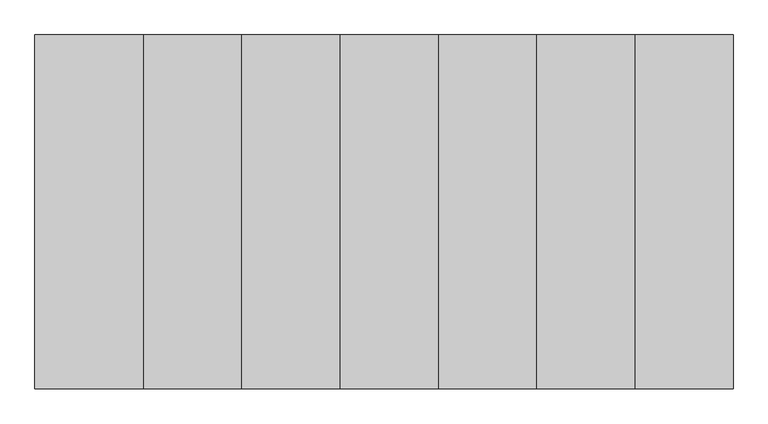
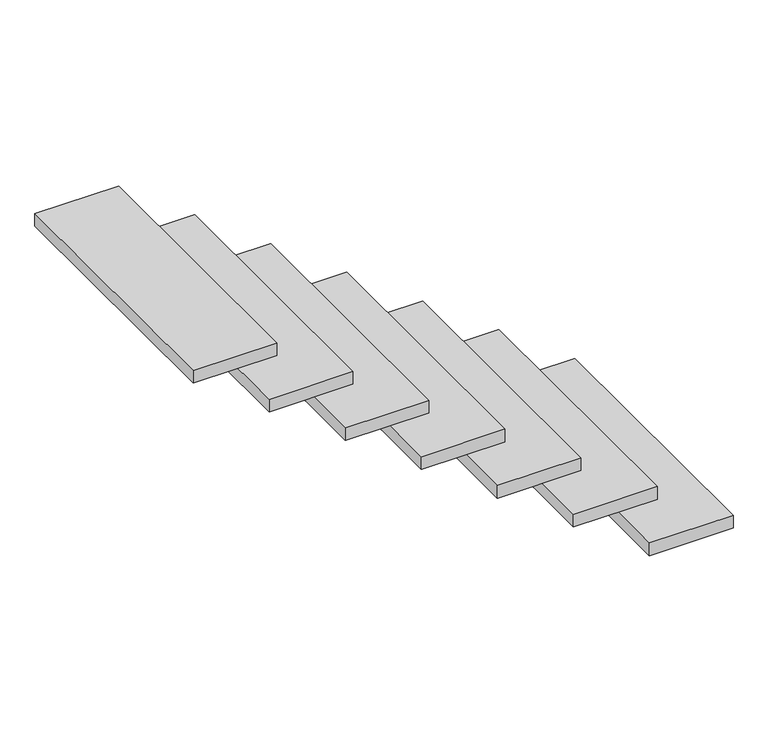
"""IFC4 building model written with IfcOpenShell, lengths in millimetres: stair flight geometry."""

import ifcopenshell
import ifcopenshell.guid

model = None  # the IFC model being written
_history = None  # IfcOwnerHistory: only IFC2X3 demands one
_inside = {}  # id of a spatial element -> (the spatial element, [elements in it])
_under = {}  # id of a project, library or spatial element -> (it, [spatial elements below it])
_declared = {}  # id of a project -> (the project, [libraries it declares])
_typed = {}  # id of a type object -> (the type object, [elements of that type])
_made_of = {}  # id of a material, layer set ... -> (it, [elements and type objects made of it])


def new_model(schema):
    """Start an empty IFC model of exactly this schema.

    Asked for "IFC4X3", IfcOpenShell would pick the latest addendum, in which some entities
    have other attributes; the version numbers below select the first issue.
    IFC2X3 requires an IfcOwnerHistory on every rooted entity: one is made here for all.
    """
    global model, _history
    if schema == "IFC4X3":
        model = ifcopenshell.file(schema_version=(4, 3, 0, 0))
    else:
        model = ifcopenshell.file(schema=schema)
    _inside.clear()
    _under.clear()
    _declared.clear()
    _typed.clear()
    _made_of.clear()
    _history = None
    if model.schema == "IFC2X3":
        org = make("IfcOrganization", Name="unknown")
        user = make(
            "IfcPersonAndOrganization",
            ThePerson=make("IfcPerson", FamilyName="unknown"),
            TheOrganization=org,
        )
        app = make(
            "IfcApplication",
            ApplicationDeveloper=org,
            Version="unknown",
            ApplicationFullName="unknown",
            ApplicationIdentifier="unknown",
        )
        _history = make(
            "IfcOwnerHistory",
            OwningUser=user,
            OwningApplication=app,
            ChangeAction="ADDED",
            CreationDate=0,
        )
    return model


def make(cls, **values):
    """One entity of the class cls with the attributes given. An attribute that is None is left unset."""
    return model.create_entity(
        cls, **{name: value for name, value in values.items() if value is not None}
    )


def rooted(cls, **values):
    """An entity with a GlobalId (a new one), such as an element, a storey or a relation."""
    return make(cls, GlobalId=ifcopenshell.guid.new(), OwnerHistory=_history, **values)


def si_unit(unit_type, name, prefix=None):
    """IfcSIUnit, for example si_unit("LENGTHUNIT", "METRE", prefix="MILLI")."""
    return make("IfcSIUnit", UnitType=unit_type, Prefix=prefix, Name=name)


def assignment(units):
    """IfcUnitAssignment: the units of a project."""
    return None if units is None else make("IfcUnitAssignment", Units=units)


def point(xyz):
    """IfcCartesianPoint."""
    return None if xyz is None else make("IfcCartesianPoint", Coordinates=xyz)


def direction(xyz):
    """IfcDirection."""
    return None if xyz is None else make("IfcDirection", DirectionRatios=xyz)


def frame(location, z_axis=None, x_axis=None):
    """IfcAxis2Placement3D, a coordinate frame: its origin and axes. An axis left out is left unset."""
    return make(
        "IfcAxis2Placement3D",
        Location=point(location),
        Axis=direction(z_axis),
        RefDirection=direction(x_axis),
    )


def origin():
    """The frame at (0, 0, 0) with its axes left unset."""
    return frame((0.0, 0.0, 0.0))


def place(relative_to, where):
    """IfcLocalPlacement: puts the frame where relative to a parent placement (None: the world)."""
    return make(
        "IfcLocalPlacement", PlacementRelTo=relative_to, RelativePlacement=where
    )


def context(
    kind, dimensions, precision=None, world=None, true_north=None, identifier=None
):
    """IfcGeometricRepresentationContext, for example the 3D "Model" context."""
    return make(
        "IfcGeometricRepresentationContext",
        ContextIdentifier=identifier,
        ContextType=kind,
        CoordinateSpaceDimension=dimensions,
        Precision=precision,
        WorldCoordinateSystem=world,
        TrueNorth=true_north,
    )


def project(units=None, contexts=None):
    """IfcProject with its units and contexts."""
    return rooted(
        "IfcProject",
        Name="project",
        RepresentationContexts=contexts,
        UnitsInContext=assignment(units),
    )


def spatial(cls, under=None, at=None, **own):
    """A site, building, storey or space (cls), placed at a placement, below another one or the project."""
    s = rooted(cls, ObjectPlacement=at, **own)
    if under is not None:
        _under.setdefault(under.id(), (under, []))[1].append(s)
    return s


def polyline(points):
    """IfcPolyline through the points."""
    return make("IfcPolyline", Points=[point(p) for p in points])


def outline(outer, holes=None, kind="AREA"):
    """IfcArbitraryClosedProfileDef: a profile drawn as a closed curve; with holes, ...WithVoids."""
    if holes is None:
        return make("IfcArbitraryClosedProfileDef", ProfileType=kind, OuterCurve=outer)
    return make(
        "IfcArbitraryProfileDefWithVoids",
        ProfileType=kind,
        OuterCurve=outer,
        InnerCurves=holes,
    )


def extrude(swept, where, along, depth):
    """IfcExtrudedAreaSolid: the profile swept, set in the frame where, extruded along a direction by depth."""
    return make(
        "IfcExtrudedAreaSolid",
        SweptArea=swept,
        Position=where,
        ExtrudedDirection=direction(along),
        Depth=depth,
    )


def shape(context_of_items, identifier, shape_type, items):
    """IfcShapeRepresentation: the items that make up one representation, for example the "Body"."""
    return make(
        "IfcShapeRepresentation",
        ContextOfItems=context_of_items,
        RepresentationIdentifier=identifier,
        RepresentationType=shape_type,
        Items=items,
    )


def source(mapping_origin, context_of_items, identifier, shape_type, items):
    """IfcRepresentationMap: a shape defined once, which mapped items show again and again."""
    return make(
        "IfcRepresentationMap",
        MappingOrigin=mapping_origin,
        MappedRepresentation=shape(context_of_items, identifier, shape_type, items),
    )


def transform(
    local_origin,
    x_axis=None,
    y_axis=None,
    z_axis=None,
    scale=None,
    scale2=None,
    scale3=None,
    uniform=True,
):
    """IfcCartesianTransformationOperator3D, or its non-uniform kind. x_axis, y_axis, z_axis: its Axis1, 2, 3."""
    if uniform:
        return make(
            "IfcCartesianTransformationOperator3D",
            Axis1=direction(x_axis),
            Axis2=direction(y_axis),
            LocalOrigin=point(local_origin),
            Scale=scale,
            Axis3=direction(z_axis),
        )
    return make(
        "IfcCartesianTransformationOperator3DnonUniform",
        Axis1=direction(x_axis),
        Axis2=direction(y_axis),
        LocalOrigin=point(local_origin),
        Scale=scale,
        Axis3=direction(z_axis),
        Scale2=scale2,
        Scale3=scale3,
    )


def mapped(mapping_source, mapping_target):
    """IfcMappedItem: shows the shape of a source again, moved by a transform."""
    return make(
        "IfcMappedItem", MappingSource=mapping_source, MappingTarget=mapping_target
    )


def made_of(thing, what):
    """Note that an element or type object is made of a material, layer set ...; save() writes the relation."""
    if what is not None:
        _made_of.setdefault(what.id(), (what, []))[1].append(thing)
    return thing


def element(
    cls,
    number,
    at=None,
    inside=None,
    cuts=None,
    type_object=None,
    material=None,
    context=None,
    identifier="Body",
    shape_type=None,
    held_by="IfcProductDefinitionShape",
    body=None,
    shapes=None,
    **own,
):
    """One element of the class cls, such as IfcWall. Its Tag is "e" and its number.

    at: its placement. inside: the storey or other place that contains it. cuts: it is an
    opening in that element (IfcRelVoidsElement). A single representation is given by context,
    identifier, shape_type and body (its items); several are given by shapes. held_by: the class
    of the entity that holds the representations. save() writes the other relations.
    """
    e = rooted(cls, Tag="e%d" % number, ObjectPlacement=at, **own)
    if body is not None:
        shapes = [shape(context, identifier, shape_type, body)]
    if shapes is not None:
        e.Representation = make(held_by, Representations=shapes)
    if inside is not None:
        _inside.setdefault(inside.id(), (inside, []))[1].append(e)
    if cuts is not None:
        rooted(
            "IfcRelVoidsElement", RelatingBuildingElement=cuts, RelatedOpeningElement=e
        )
    if type_object is not None:
        _typed.setdefault(type_object.id(), (type_object, []))[1].append(e)
    return made_of(e, material)


def aggregate(whole, parts):
    """IfcRelAggregates: a whole, such as a stair, and the parts it consists of."""
    return rooted("IfcRelAggregates", RelatingObject=whole, RelatedObjects=parts)


def save(model, path):
    """Write the relations noted so far, then the file.

    IfcRelAggregates (storeys below a building ...), IfcRelContainedInSpatialStructure (elements
    in a storey), IfcRelDefinesByType, IfcRelAssociatesMaterial and IfcRelDeclares: one each for
    every whole, place, type object, material and project.
    """
    for whole, parts in _under.values():
        aggregate(whole, parts)
    for where, things in _inside.values():
        rooted(
            "IfcRelContainedInSpatialStructure",
            RelatedElements=things,
            RelatingStructure=where,
        )
    for kind, things in _typed.values():
        rooted("IfcRelDefinesByType", RelatedObjects=things, RelatingType=kind)
    for what, things in _made_of.values():
        rooted("IfcRelAssociatesMaterial", RelatedObjects=things, RelatingMaterial=what)
    for by, libraries in _declared.values():
        rooted("IfcRelDeclares", RelatingContext=by, RelatedDefinitions=libraries)
    model.write(path)


def stair_flight_d816db76(model_context):
    return source(origin(), model_context, "Body", "SweptSolid", [
        extrude(outline(polyline([(-16283.4481446, -3968.8871906), (-16283.4481446, -3054.4871906), (-16004.0481446, -3054.4871906), (-16004.0481446, -3968.8871906), (-16283.4481446, -3968.8871906)])), frame((0.0, 0.0, 1670.05), z_axis=(0.0, 0.0, 1.0), x_axis=(1.0, 0.0, 0.0)), (0.0, 0.0, 1.0), 44.45),
        extrude(outline(polyline([(-16537.4481446, -3968.8871906), (-16537.4481446, -3054.4871906), (-16258.0481446, -3054.4871906), (-16258.0481446, -3968.8871906), (-16537.4481446, -3968.8871906)])), frame((0.0, 0.0, 1860.55), z_axis=(0.0, 0.0, 1.0), x_axis=(1.0, 0.0, 0.0)), (0.0, 0.0, 1.0), 44.45),
        extrude(outline(polyline([(-16791.4481446, -3968.8871906), (-16791.4481446, -3054.4871906), (-16512.0481446, -3054.4871906), (-16512.0481446, -3968.8871906), (-16791.4481446, -3968.8871906)])), frame((0.0, 0.0, 2051.05), z_axis=(0.0, 0.0, 1.0), x_axis=(1.0, 0.0, 0.0)), (0.0, 0.0, 1.0), 44.45),
        extrude(outline(polyline([(-17045.4481446, -3968.8871906), (-17045.4481446, -3054.4871906), (-16766.0481446, -3054.4871906), (-16766.0481446, -3968.8871906), (-17045.4481446, -3968.8871906)])), frame((0.0, 0.0, 2241.55), z_axis=(0.0, 0.0, 1.0), x_axis=(1.0, 0.0, 0.0)), (0.0, 0.0, 1.0), 44.45),
        extrude(outline(polyline([(-17299.4481446, -3968.8871906), (-17299.4481446, -3054.4871906), (-17020.0481446, -3054.4871906), (-17020.0481446, -3968.8871906), (-17299.4481446, -3968.8871906)])), frame((0.0, 0.0, 2432.05), z_axis=(0.0, 0.0, 1.0), x_axis=(1.0, 0.0, 0.0)), (0.0, 0.0, 1.0), 44.45),
        extrude(outline(polyline([(-17553.4481446, -3968.8871906), (-17553.4481446, -3054.4871906), (-17274.0481446, -3054.4871906), (-17274.0481446, -3968.8871906), (-17553.4481446, -3968.8871906)])), frame((0.0, 0.0, 2622.55), z_axis=(0.0, 0.0, 1.0), x_axis=(1.0, 0.0, 0.0)), (0.0, 0.0, 1.0), 44.45),
        extrude(outline(polyline([(-17807.4481446, -3968.8871906), (-17807.4481446, -3054.4871906), (-17528.0481446, -3054.4871906), (-17528.0481446, -3968.8871906), (-17807.4481446, -3968.8871906)])), frame((0.0, 0.0, 2813.05), z_axis=(0.0, 0.0, 1.0), x_axis=(1.0, 0.0, 0.0)), (0.0, 0.0, 1.0), 44.45),
    ])


if __name__ == "__main__":
    model = new_model("IFC4")
    model_context = context("Model", 3, world=origin())
    ifc_project = project(units=[si_unit("LENGTHUNIT", "METRE", prefix="MILLI")], contexts=[model_context])
    site = spatial("IfcSite", under=ifc_project)
    building = spatial("IfcBuilding", under=site)
    placement = place(None, origin())
    stair_flight_shape = stair_flight_d816db76(model_context)
    element("IfcStairFlight", 1, ObjectType="Unassigned Steps with 1 3/4\" Tread 1\" Nosing", at=placement, inside=building, context=model_context, shape_type="MappedRepresentation", body=[
        mapped(stair_flight_shape, transform((0.0, 0.0, 0.0), x_axis=(1.0, 0.0, 0.0), y_axis=(0.0, 1.0, 0.0), z_axis=(0.0, 0.0, 1.0))),
    ])
    save(model, "model.ifc")
